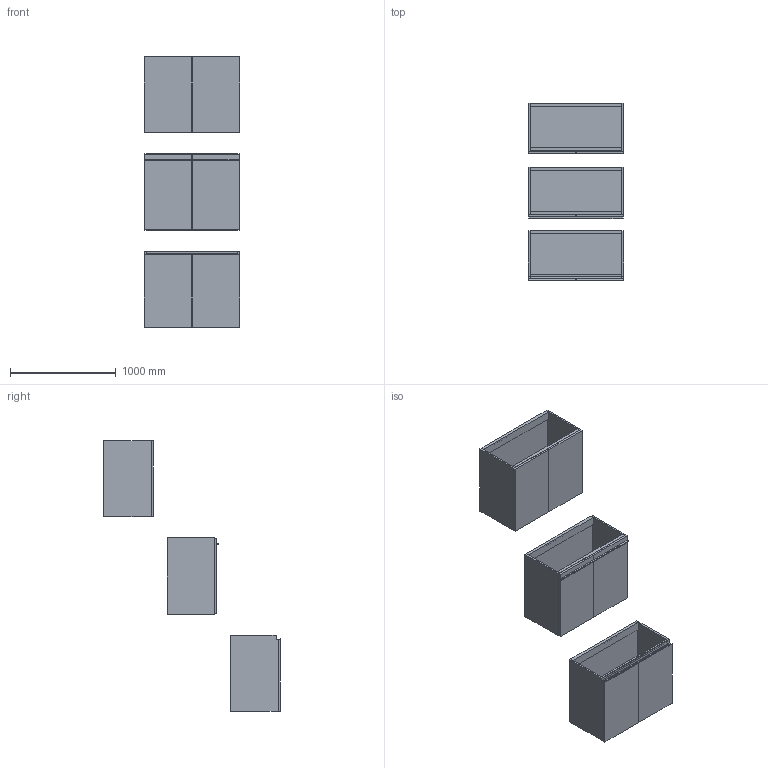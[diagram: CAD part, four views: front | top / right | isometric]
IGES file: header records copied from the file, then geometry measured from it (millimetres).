
Start section: Data from Parasolid IGES Translator 19.0.9, Copyright(c) 2006 Siemens PL M Software. All Rights Reserved.
Global section: file name: noorth-SI-H 72 D 47 W 90_8612.igs; native system: By Siemens PLM Incorporated; preprocessor: XPlus GENERIC/IGES 19.0.9; author: Noname; organization: Noname; date: 20200601.120640; units: metre
Bounding box: 900 x 1669.1 x 2560.01 mm (x, y, z)
Volume: 98726498.9 mm3; surface area: 15212905.4 mm2
Topology: 27 solids, 27 shells, 264 faces, 566 edges, 336 vertices
Faces by surface type: plane 180, extrusion 32, bspline 32, cylinder 20
